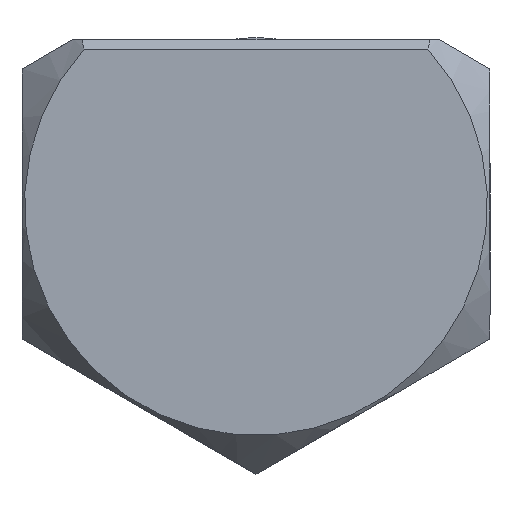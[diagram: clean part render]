
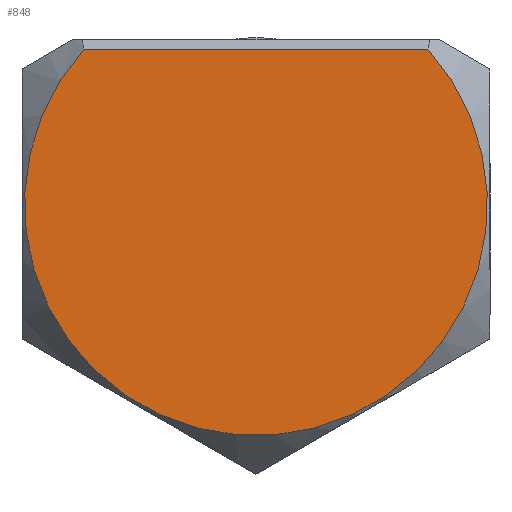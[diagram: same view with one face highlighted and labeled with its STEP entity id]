
A CAD part, front view. The second image highlights one B-rep face of the part: STEP entity #848.
In plain terms, the highlighted planar face has unit normal (0, -1, 0).
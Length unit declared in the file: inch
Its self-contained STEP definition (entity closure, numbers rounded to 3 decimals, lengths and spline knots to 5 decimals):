
#92=PLANE('',#958);
#124=FACE_OUTER_BOUND('',#175,.T.);
#175=EDGE_LOOP('',(#668,#669));
#214=LINE('',#1356,#249);
#249=VECTOR('',#1062,0.3937);
#285=CIRCLE('',#924,0.463);
#355=VERTEX_POINT('',#1353);
#356=VERTEX_POINT('',#1355);
#443=EDGE_CURVE('',#355,#356,#214,.T.);
#454=EDGE_CURVE('',#356,#355,#285,.T.);
#668=ORIENTED_EDGE('',*,*,#443,.F.);
#669=ORIENTED_EDGE('',*,*,#454,.F.);
#848=ADVANCED_FACE('',(#124),#92,.T.);
#924=AXIS2_PLACEMENT_3D('',#1392,#1068,#1069);
#958=AXIS2_PLACEMENT_3D('',#1498,#1156,#1157);
#1062=DIRECTION('',(1.,0.,0.));
#1068=DIRECTION('center_axis',(0.,1.,0.));
#1069=DIRECTION('ref_axis',(0.,0.,1.));
#1156=DIRECTION('center_axis',(0.,-1.,0.));
#1157=DIRECTION('ref_axis',(0.,0.,-1.));
#1353=CARTESIAN_POINT('',(-0.3439,0.,0.31));
#1355=CARTESIAN_POINT('',(0.3439,0.,0.31));
#1356=CARTESIAN_POINT('',(0.18221,0.,0.31));
#1392=CARTESIAN_POINT('Origin',(0.,0.,0.));
#1498=CARTESIAN_POINT('Origin',(0.,0.,0.));
